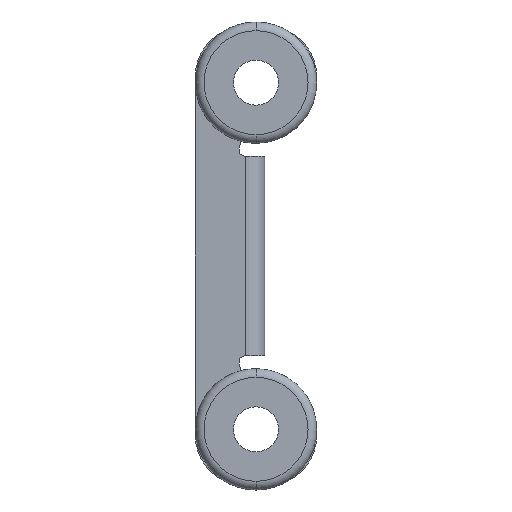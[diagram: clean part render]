
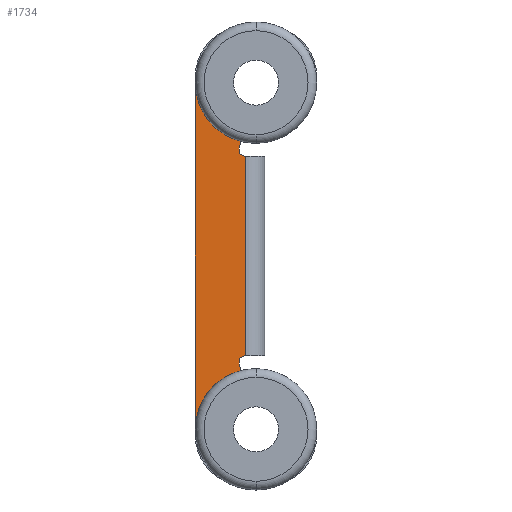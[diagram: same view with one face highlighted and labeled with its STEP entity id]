
A CAD part, left-side view. The second image highlights one B-rep face of the part: STEP entity #1734.
In plain terms, the highlighted planar face has unit normal (-1, 0, 0) as drawn and (0, 0, 1) by its records, which use the part's own axes.
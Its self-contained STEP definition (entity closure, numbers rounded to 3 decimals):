
#104 = VERTEX_POINT ( 'NONE', #1473 ) ;
#129 = CIRCLE ( 'NONE', #2310, 0.7 ) ;
#222 = VERTEX_POINT ( 'NONE', #1821 ) ;
#257 = VECTOR ( 'NONE', #1856, 1000. ) ;
#333 = EDGE_CURVE ( 'NONE', #2837, #222, #2686, .T. ) ;
#352 = DIRECTION ( 'NONE',  ( 0., 0., -1. ) ) ;
#356 = ORIENTED_EDGE ( 'NONE', *, *, #1233, .T. ) ;
#391 = CARTESIAN_POINT ( 'NONE',  ( -26.5, -67.038, 2.2 ) ) ;
#414 = AXIS2_PLACEMENT_3D ( 'NONE', #852, #3039, #2014 ) ;
#456 = VERTEX_POINT ( 'NONE', #1854 ) ;
#709 = VERTEX_POINT ( 'NONE', #1989 ) ;
#784 = LINE ( 'NONE', #1252, #1944 ) ;
#793 = DIRECTION ( 'NONE',  ( -1., 0., 0. ) ) ;
#815 = AXIS2_PLACEMENT_3D ( 'NONE', #2358, #2145, #1646 ) ;
#852 = CARTESIAN_POINT ( 'NONE',  ( -12.2, 0.05, 2.2 ) ) ;
#894 = EDGE_CURVE ( 'NONE', #1235, #1455, #2550, .T. ) ;
#1007 = EDGE_CURVE ( 'NONE', #1038, #456, #1297, .T. ) ;
#1038 = VERTEX_POINT ( 'NONE', #1873 ) ;
#1042 = EDGE_CURVE ( 'NONE', #1134, #709, #2122, .T. ) ;
#1077 = CARTESIAN_POINT ( 'NONE',  ( 11.5, -1.2, 2.2 ) ) ;
#1090 = AXIS2_PLACEMENT_3D ( 'NONE', #2880, #2433, #1978 ) ;
#1134 = VERTEX_POINT ( 'NONE', #2724 ) ;
#1233 = EDGE_CURVE ( 'NONE', #1455, #709, #2488, .T. ) ;
#1235 = VERTEX_POINT ( 'NONE', #3037 ) ;
#1239 = DIRECTION ( 'NONE',  ( 0., 1., 0. ) ) ;
#1243 = DIRECTION ( 'NONE',  ( 0., 1., 0. ) ) ;
#1252 = CARTESIAN_POINT ( 'NONE',  ( -26.5, -7., 2.2 ) ) ;
#1253 = ORIENTED_EDGE ( 'NONE', *, *, #2432, .T. ) ;
#1297 = CIRCLE ( 'NONE', #1090, 7. ) ;
#1340 = DIRECTION ( 'NONE',  ( 0., 1., 0. ) ) ;
#1359 = CARTESIAN_POINT ( 'NONE',  ( 20., 0., 2.2 ) ) ;
#1385 = EDGE_CURVE ( 'NONE', #222, #2242, #1543, .T. ) ;
#1455 = VERTEX_POINT ( 'NONE', #2904 ) ;
#1473 = CARTESIAN_POINT ( 'NONE',  ( -12.2, -1.95, 2.2 ) ) ;
#1479 = AXIS2_PLACEMENT_3D ( 'NONE', #2297, #3006, #1243 ) ;
#1543 = CIRCLE ( 'NONE', #815, 2. ) ;
#1550 = DIRECTION ( 'NONE',  ( -1., 0., 0. ) ) ;
#1596 = EDGE_CURVE ( 'NONE', #1038, #2837, #784, .T. ) ;
#1633 = CIRCLE ( 'NONE', #1479, 0.7 ) ;
#1646 = DIRECTION ( 'NONE',  ( 0., 1., 0. ) ) ;
#1664 = CARTESIAN_POINT ( 'NONE',  ( 12.2, -1.95, 2.2 ) ) ;
#1688 = AXIS2_PLACEMENT_3D ( 'NONE', #391, #3117, #3099 ) ;
#1716 = CARTESIAN_POINT ( 'NONE',  ( 20., -7., 2.2 ) ) ;
#1734 = ADVANCED_FACE ( 'NONE', ( #2857 ), #2570, .F. ) ;
#1764 = VECTOR ( 'NONE', #1239, 1000. ) ;
#1821 = CARTESIAN_POINT ( 'NONE',  ( 13.204, -1.679, 2.2 ) ) ;
#1854 = CARTESIAN_POINT ( 'NONE',  ( -13.204, -1.679, 2.2 ) ) ;
#1856 = DIRECTION ( 'NONE',  ( 0., 1., 0. ) ) ;
#1873 = CARTESIAN_POINT ( 'NONE',  ( -20., -7., 2.2 ) ) ;
#1917 = ORIENTED_EDGE ( 'NONE', *, *, #3226, .T. ) ;
#1944 = VECTOR ( 'NONE', #2517, 1000. ) ;
#1978 = DIRECTION ( 'NONE',  ( 1., 0., 0. ) ) ;
#1989 = CARTESIAN_POINT ( 'NONE',  ( -11.5, -1.2, 2.2 ) ) ;
#2014 = DIRECTION ( 'NONE',  ( 0., 1., 0. ) ) ;
#2072 = CARTESIAN_POINT ( 'NONE',  ( 11.5, -10.36, 2.2 ) ) ;
#2122 = LINE ( 'NONE', #2192, #1764 ) ;
#2125 = ORIENTED_EDGE ( 'NONE', *, *, #333, .T. ) ;
#2145 = DIRECTION ( 'NONE',  ( 0., 0., -1. ) ) ;
#2192 = CARTESIAN_POINT ( 'NONE',  ( -11.5, -10.36, 2.2 ) ) ;
#2242 = VERTEX_POINT ( 'NONE', #1664 ) ;
#2297 = CARTESIAN_POINT ( 'NONE',  ( 12.2, -1.25, 2.2 ) ) ;
#2310 = AXIS2_PLACEMENT_3D ( 'NONE', #2626, #352, #1340 ) ;
#2314 = ORIENTED_EDGE ( 'NONE', *, *, #894, .T. ) ;
#2329 = ORIENTED_EDGE ( 'NONE', *, *, #1596, .T. ) ;
#2358 = CARTESIAN_POINT ( 'NONE',  ( 12.2, 0.05, 2.2 ) ) ;
#2413 = AXIS2_PLACEMENT_3D ( 'NONE', #1359, #3027, #793 ) ;
#2432 = EDGE_CURVE ( 'NONE', #104, #456, #3124, .T. ) ;
#2433 = DIRECTION ( 'NONE',  ( 0., 0., 1. ) ) ;
#2446 = EDGE_LOOP ( 'NONE', ( #1253, #2914, #2329, #2125, #3016, #3191, #2314, #356, #3119, #1917 ) ) ;
#2471 = VECTOR ( 'NONE', #1550, 1000. ) ;
#2488 = LINE ( 'NONE', #1077, #2471 ) ;
#2517 = DIRECTION ( 'NONE',  ( 1., 0., 0. ) ) ;
#2550 = LINE ( 'NONE', #2072, #257 ) ;
#2570 = PLANE ( 'NONE',  #1688 ) ;
#2626 = CARTESIAN_POINT ( 'NONE',  ( -12.2, -1.25, 2.2 ) ) ;
#2686 = CIRCLE ( 'NONE', #2413, 7. ) ;
#2724 = CARTESIAN_POINT ( 'NONE',  ( -11.5, -1.25, 2.2 ) ) ;
#2837 = VERTEX_POINT ( 'NONE', #1716 ) ;
#2857 = FACE_OUTER_BOUND ( 'NONE', #2446, .T. ) ;
#2880 = CARTESIAN_POINT ( 'NONE',  ( -20., 0., 2.2 ) ) ;
#2904 = CARTESIAN_POINT ( 'NONE',  ( 11.5, -1.2, 2.2 ) ) ;
#2914 = ORIENTED_EDGE ( 'NONE', *, *, #1007, .F. ) ;
#3006 = DIRECTION ( 'NONE',  ( 0., 0., -1. ) ) ;
#3016 = ORIENTED_EDGE ( 'NONE', *, *, #1385, .T. ) ;
#3027 = DIRECTION ( 'NONE',  ( 0., 0., -1. ) ) ;
#3037 = CARTESIAN_POINT ( 'NONE',  ( 11.5, -1.25, 2.2 ) ) ;
#3039 = DIRECTION ( 'NONE',  ( 0., 0., -1. ) ) ;
#3048 = EDGE_CURVE ( 'NONE', #2242, #1235, #1633, .T. ) ;
#3099 = DIRECTION ( 'NONE',  ( 0., 1., 0. ) ) ;
#3117 = DIRECTION ( 'NONE',  ( 0., 0., -1. ) ) ;
#3119 = ORIENTED_EDGE ( 'NONE', *, *, #1042, .F. ) ;
#3124 = CIRCLE ( 'NONE', #414, 2. ) ;
#3191 = ORIENTED_EDGE ( 'NONE', *, *, #3048, .T. ) ;
#3226 = EDGE_CURVE ( 'NONE', #1134, #104, #129, .T. ) ;
